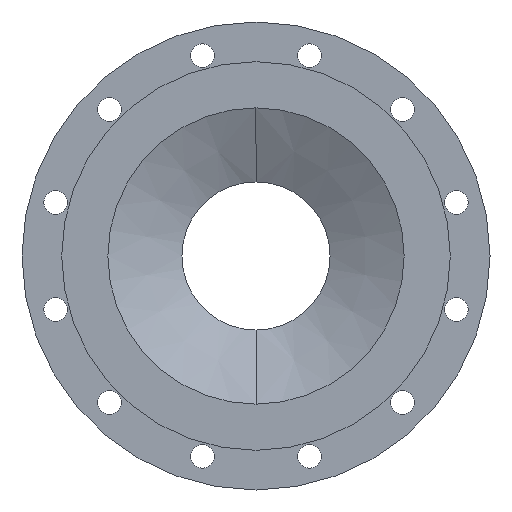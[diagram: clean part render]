
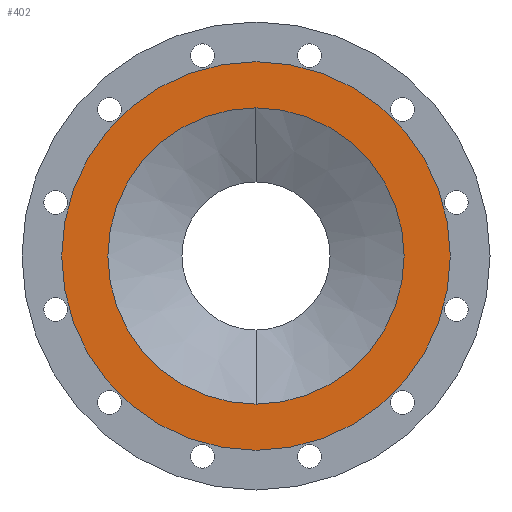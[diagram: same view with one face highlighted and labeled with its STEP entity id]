
A CAD part, left-side view. The second image highlights one B-rep face of the part: STEP entity #402.
In plain terms, the highlighted planar face has unit normal (-1, 0, 0).
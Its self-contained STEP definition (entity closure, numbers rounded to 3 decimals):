
#402=ADVANCED_FACE('',(#808,#809),#810,.F.);
#808=FACE_BOUND('',#1365,.T.);
#809=FACE_OUTER_BOUND('',#1366,.T.);
#810=PLANE('',#1367);
#1365=EDGE_LOOP('',(#1981,#1982));
#1366=EDGE_LOOP('',(#1983,#1984));
#1367=AXIS2_PLACEMENT_3D('',#1985,#1986,#1987);
#1981=ORIENTED_EDGE('',*,*,#3014,.T.);
#1982=ORIENTED_EDGE('',*,*,#3016,.T.);
#1983=ORIENTED_EDGE('',*,*,#3017,.F.);
#1984=ORIENTED_EDGE('',*,*,#3018,.F.);
#1985=CARTESIAN_POINT('',(0.0,0.0,0.));
#1986=DIRECTION('',(1.0,0.0,0.));
#1987=DIRECTION('',(0.,0.0,-1.0));
#3014=EDGE_CURVE('',#3557,#3561,#3563,.T.);
#3016=EDGE_CURVE('',#3561,#3557,#3565,.T.);
#3017=EDGE_CURVE('',#3566,#3567,#3568,.T.);
#3018=EDGE_CURVE('',#3567,#3566,#3569,.T.);
#3557=VERTEX_POINT('',#4276);
#3561=VERTEX_POINT('',#4281);
#3563=CIRCLE('',#4284,125.0);
#3565=CIRCLE('',#4286,125.0);
#3566=VERTEX_POINT('',#4287);
#3567=VERTEX_POINT('',#4288);
#3568=CIRCLE('',#4289,164.0);
#3569=CIRCLE('',#4290,164.0);
#4276=CARTESIAN_POINT('',(0.,0.0,-125.0));
#4281=CARTESIAN_POINT('',(0.,0.,125.0));
#4284=AXIS2_PLACEMENT_3D('',#4981,#4982,#4983);
#4286=AXIS2_PLACEMENT_3D('',#4984,#4985,#4986);
#4287=CARTESIAN_POINT('',(0.,0.0,-164.0));
#4288=CARTESIAN_POINT('',(0.,0.,164.0));
#4289=AXIS2_PLACEMENT_3D('',#4987,#4988,#4989);
#4290=AXIS2_PLACEMENT_3D('',#4990,#4991,#4992);
#4981=CARTESIAN_POINT('',(0.0,0.0,0.0));
#4982=DIRECTION('',(1.0,0.0,0.));
#4983=DIRECTION('',(0.,0.0,-1.0));
#4984=CARTESIAN_POINT('',(0.0,0.0,0.0));
#4985=DIRECTION('',(1.0,0.0,0.));
#4986=DIRECTION('',(0.,0.0,-1.0));
#4987=CARTESIAN_POINT('',(0.0,0.0,0.));
#4988=DIRECTION('',(1.0,0.0,0.));
#4989=DIRECTION('',(0.,0.0,-1.0));
#4990=CARTESIAN_POINT('',(0.0,0.0,0.));
#4991=DIRECTION('',(1.0,0.0,0.));
#4992=DIRECTION('',(0.,0.0,-1.0));
